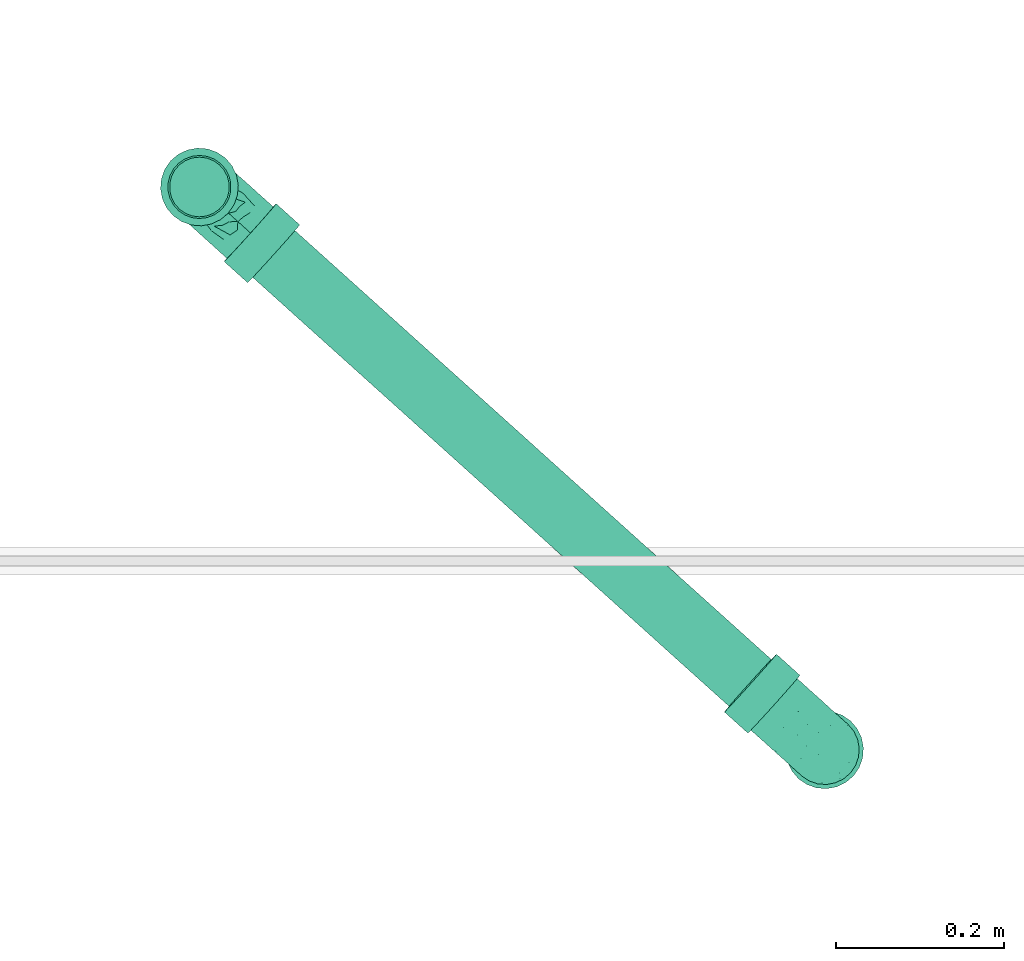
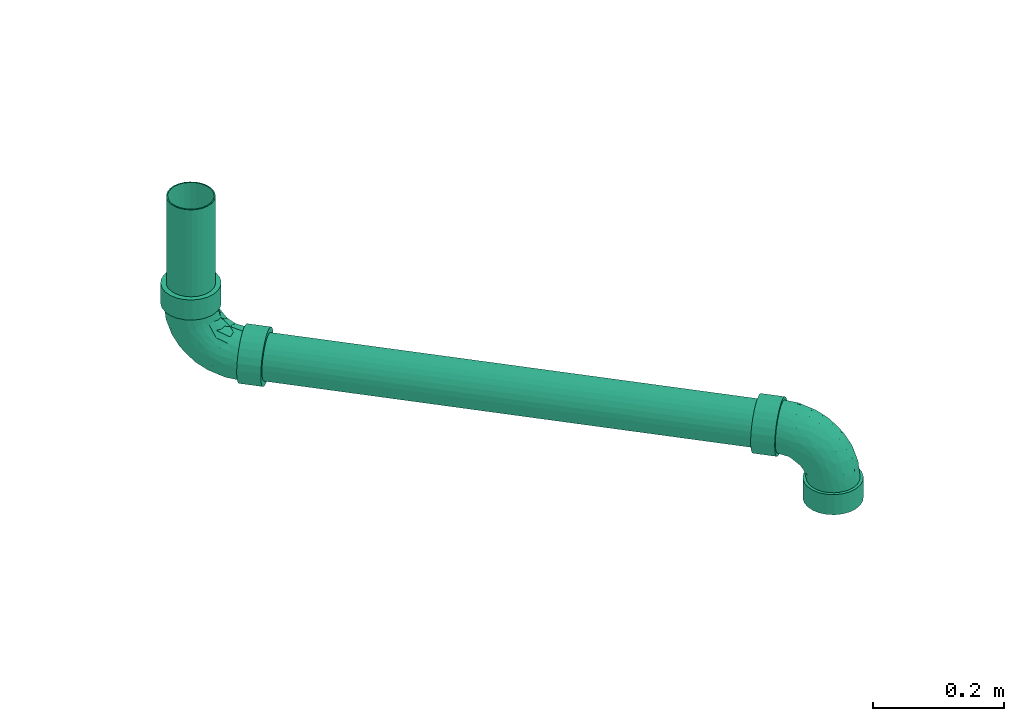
# One storey, part 51 of 108: 2 flow fittings, 2 flow segments.
"""IFC2X3 building model written with IfcOpenShell, lengths in millimetres."""

from ifc_helpers import new_model, entity, si_unit, converted_unit, derived_unit, direction, frame, origin_with_axes, origin_2d_with_axis, place, context, subcontext, project, spatial, hollow_circle, extrude, open_shell, surface_model, source, transform, mapped, type_object, element, save


model = new_model("IFC2X3")

# Units and contexts
model_context = context("Model", 3, precision=0.01, world=frame((0.0, 4.29681676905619e-09, 0.0)), true_north=direction((4.01073788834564e-13, 1.0)))
plan_context = context("Plan", 3, precision=0.01, world=frame((0.0, 4.29681676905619e-09, 0.0)), true_north=direction((4.01073788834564e-13, 1.0)))
body_context = subcontext(model_context, "Body", "Model", "MODEL_VIEW")
ifc_project = project(units=[converted_unit("PLANEANGLEUNIT", "DEGREE", entity("IfcPositiveLengthMeasure", 0.0174532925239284), si_unit("PLANEANGLEUNIT", "RADIAN"), dimensions=[0, 0, 0, 0, 0, 0, 0]), si_unit("AREAUNIT", "SQUARE_METRE"), si_unit("LENGTHUNIT", "METRE", prefix="MILLI"), si_unit("MASSUNIT", "GRAM", prefix="KILO"), si_unit("POWERUNIT", "WATT"), si_unit("PRESSUREUNIT", "PASCAL", prefix="KILO"), si_unit("FORCEUNIT", "NEWTON", prefix="KILO"), si_unit("ELECTRICVOLTAGEUNIT", "VOLT"), si_unit("ELECTRICCURRENTUNIT", "AMPERE"), si_unit("THERMODYNAMICTEMPERATUREUNIT", "DEGREE_CELSIUS"), si_unit("TIMEUNIT", "SECOND"), si_unit("VOLUMEUNIT", "CUBIC_METRE"), derived_unit("LINEARVELOCITYUNIT", [(si_unit("LENGTHUNIT", "METRE"), 1), (si_unit("TIMEUNIT", "SECOND"), -1)]), derived_unit("VOLUMETRICFLOWRATEUNIT", [(si_unit("VOLUMEUNIT", "CUBIC_METRE"), 1), (si_unit("TIMEUNIT", "SECOND"), -1)]), derived_unit("THERMALTRANSMITTANCEUNIT", [(si_unit("POWERUNIT", "WATT"), 1), (si_unit("THERMODYNAMICTEMPERATUREUNIT", "KELVIN"), -1), (si_unit("AREAUNIT", "SQUARE_METRE"), -1)]), derived_unit("SOUNDPRESSUREUNIT", [(si_unit("PRESSUREUNIT", "PASCAL"), 1)])], contexts=[model_context, plan_context])

# Site, building, storey
site_placement = place(None, frame((0.0, -4.29681676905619e-09, 0.0), z_axis=(0.0, 0.0, 1.0), x_axis=(1.0, 0.0, 0.0)))
site = spatial("IfcSite", under=ifc_project, at=site_placement, CompositionType="ELEMENT")
building_placement = place(site_placement, frame((0.0, 4.29681676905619e-09, 0.0), z_axis=(0.0, 0.0, 1.0), x_axis=(1.0, 0.0, 0.0)))
building = spatial("IfcBuilding", under=site, at=building_placement, Name="mc-building", CompositionType="ELEMENT")
storey_placement = place(building_placement, frame((0.0, 0.0, 210200.0), z_axis=(0.0, 0.0, 1.0), x_axis=(1.0, 0.0, 0.0)))
storey = spatial("IfcBuildingStorey", under=building, at=storey_placement, Name="Nivå F - 0,7 m", CompositionType="ELEMENT", Elevation=210200.0)

# Flow fittings
pipe_fitting_type = type_object("IfcPipeFittingType", Name="magi_sewer_bend_001", PredefinedType="BEND")
shared_shape_1 = source(origin_with_axes(), body_context, "Body", "SurfaceModel", [
    surface_model("IfcShellBasedSurfaceModel", [(-118.63645, -44.67407, -11.97038), (-118.63645, -11.97038, -44.67407), (-118.63645, -23.125, -40.05367), (-118.63645, -32.70369, -32.70369), (-118.63645, 0.0, -46.25), (-118.63645, -40.05367, -23.125), (-118.63645, -46.25, 0.0), (-118.63645, 11.97038, -44.67407), (-118.63645, 32.70369, -32.70369), (-118.63645, 23.125, -40.05367), (-118.63645, 44.67407, -11.97038), (-118.63645, 40.05367, -23.125), (-118.63645, -32.70369, 32.70369), (-118.63645, -44.67407, 11.97038), (-118.63645, -40.05367, 23.125), (-118.63645, 32.70369, 32.70369), (-118.63645, -23.125, 40.05367), (-118.63645, -11.97038, 44.67407), (-118.63645, 0.0, 46.25), (-118.63645, 44.67407, 11.97038), (-118.63645, 46.25, 0.0), (-118.63645, 40.05367, 23.125), (-118.63645, 11.97038, 44.67407), (-118.63645, 23.125, 40.05367), (-81.13645, 0.0, 46.25), (-81.13645, -11.97038, 44.67407), (-81.13645, -23.125, 40.05367), (-81.13645, -32.70369, 32.70369), (-81.13645, -40.05367, 23.125), (-81.13645, -44.67407, 11.97038), (-81.13645, 32.70369, 32.70369), (-81.13645, -44.67407, -11.97038), (-81.13645, 11.97038, 44.67407), (-81.13645, 23.125, 40.05367), (-81.13645, 44.67407, 11.97038), (-81.13645, 44.67407, -11.97038), (-81.13645, 46.25, 0.0), (-81.13645, 40.05367, 23.125), (-81.13645, -32.70369, -32.70369), (-81.13645, -40.05367, -23.125), (-81.13645, -23.125, -40.05367), (-81.13645, -11.97038, -44.67407), (-81.13645, 11.97038, -44.67407), (-81.13645, 32.70369, -32.70369), (-81.13645, 40.05367, -23.125), (-81.13645, 23.125, -40.05367), (-81.13645, 0.0, -46.25), (-81.13645, -46.25, 0.0), (-9.99172, 118.81946, 44.67407), (-42.69087, 119.36444, 11.97038), (-38.07111, 119.28745, 23.125), (-30.72215, 119.16497, 32.70369), (-30.72215, 119.16497, -32.70369), (-21.14479, 119.00535, 40.05367), (25.09879, 118.23462, -40.05367), (-9.99172, 118.81946, -44.67407), (-42.69087, 119.36444, -11.97038), (-38.07111, 119.28745, -23.125), (-44.26658, 119.39071, 0.0), (-21.14479, 119.00535, -40.05367), (1.977, 118.61999, 46.25), (34.67615, 118.075, 32.70369), (13.94572, 118.42051, 44.67407), (25.09879, 118.23462, 40.05367), (42.02511, 117.95251, 23.125), (46.64486, 117.87552, 11.97038), (48.22058, 117.84926, 0.0), (13.94572, 118.42051, -44.67407), (1.977, 118.61999, -46.25), (34.67615, 118.075, -32.70369), (46.64486, 117.87552, -11.97038), (42.02511, 117.95251, -23.125), (47.59566, 80.35446, 0.0), (46.01995, 80.38072, 11.97038), (41.4002, 80.45773, 23.125), (34.05123, 80.5802, 32.70369), (24.47388, 80.73983, 40.05367), (13.32081, 80.92571, 44.67407), (24.47388, 80.73983, -40.05367), (-10.61663, 81.32467, 44.67407), (46.01995, 80.38072, -11.97038), (34.05123, 80.5802, -32.70369), (41.4002, 80.45773, -23.125), (13.32081, 80.92571, -44.67407), (-10.61663, 81.32467, -44.67407), (1.35209, 81.12519, -46.25), (1.35209, 81.12519, 46.25), (-31.34706, 81.67018, 32.70369), (-21.7697, 81.51055, 40.05367), (-38.69603, 81.79266, 23.125), (-43.31578, 81.86966, -11.97038), (-43.31578, 81.86966, 11.97038), (-31.34706, 81.67018, -32.70369), (-21.7697, 81.51055, -40.05367), (-38.69603, 81.79266, -23.125), (-44.89149, 81.89592, 0.0), (-81.13645, 10.67629, -39.84444), (-81.13645, 0.0, -41.25), (-81.13645, 35.72355, -20.625), (-81.13645, 20.625, -35.72355), (-81.13645, -10.67629, -39.84444), (-81.13645, 29.16816, -29.16816), (-81.13645, 39.84444, -10.67629), (-81.13645, -29.16816, -29.16816), (-81.13645, -35.72355, -20.625), (-81.13645, -20.625, -35.72355), (-81.13645, -39.84444, -10.67629), (-81.13645, -41.25, 0.0), (-81.13645, -39.84444, 10.67629), (-81.13645, 41.25, 0.0), (-81.13645, 35.72355, 20.625), (-81.13645, 39.84444, 10.67629), (-81.13645, 10.67629, 39.84444), (-81.13645, 20.625, 35.72355), (-81.13645, 29.16816, 29.16816), (-81.13645, 0.0, 41.25), (-81.13645, -35.72355, 20.625), (-81.13645, -29.16816, 29.16816), (-81.13645, -10.67629, 39.84444), (-81.13645, -20.625, 35.72355), (-9.32272, 81.3031, -39.84444), (30.51619, 80.63912, 29.16816), (1.35209, 81.12519, -41.25), (-34.3665, 81.7205, -20.625), (-19.27005, 81.46889, -35.72355), (21.97422, 80.78149, -35.72355), (-27.81202, 81.61126, -29.16816), (-34.3665, 81.7205, 20.625), (30.51619, 80.63912, -29.16816), (12.02689, 80.94728, -39.84444), (41.191, 80.46121, -10.67629), (41.191, 80.46121, 10.67629), (42.59636, 80.43779, 0.0), (37.07067, 80.52988, -20.625), (-38.48682, 81.78918, -10.67629), (-39.89219, 81.81259, 0.0), (-38.48682, 81.78918, 10.67629), (-19.27005, 81.46889, 35.72355), (-27.81202, 81.61126, 29.16816), (-9.32272, 81.3031, 39.84444), (37.07067, 80.52988, 20.625), (12.02689, 80.94728, 39.84444), (21.97422, 80.78149, 35.72355), (1.35209, 81.12519, 41.25), (-54.39442, -36.17404, 12.99457), (-59.16193, -32.03479, 23.17612), (-43.28809, -35.32005, 0.0), (-60.84196, -38.07033, 0.0), (23.37041, 18.86095, 10.62349), (15.01238, 9.79779, 15.95055), (11.94444, 2.36888, 8.70418), (-61.88845, -5.46813, 40.5533), (-56.57345, 6.31813, 41.17681), (32.38619, 35.45125, 8.39828), (27.1418, 25.72883, 0.0), (-58.98118, -15.54274, 37.10832), (-30.85607, -9.76023, 34.5265), (-40.12451, -0.47476, 40.00525), (-68.72839, -25.45103, 31.89237), (-35.98602, -31.79092, 8.39828), (-26.17756, -26.70928, 0.0), (-6.74396, 6.85729, 33.83574), (-14.04648, -9.83948, 26.468), (-39.19131, 65.31528, 17.88497), (-14.23306, 70.22892, 38.62481), (-4.65309, 60.53836, 41.14609), (-62.27481, 16.19182, 38.95705), (-10.07336, 26.71188, 40.49708), (-19.56807, 7.50587, 38.60631), (-3.30313, 21.70945, 37.91013), (-70.23759, 24.97294, 33.58539), (-13.65396, 39.94702, 41.16014), (-29.72786, 30.22745, 40.21467), (-23.93531, 17.70774, 41.06244), (-62.06374, 44.71052, 9.37653), (-64.65311, 40.27431, 17.88497), (26.59281, 68.29472, 31.89237), (-63.23862, 34.37113, 27.04031), (-42.66984, 45.56196, 29.16641), (-51.8902, 44.18713, 22.91415), (-33.39862, 63.50778, 27.07262), (16.52346, 58.71398, 37.10832), (24.38357, 51.08549, 30.6589), (33.01624, 58.61988, 23.17612), (25.6206, 31.60074, 20.54424), (37.07546, 53.78405, 12.99457), (-9.06702, -18.0985, 0.0), (-19.24778, -23.05286, 10.62349), (6.4987, 61.78873, 40.5533), (-44.29082, 17.50905, 40.50755), (-39.59673, 10.04822, 41.2375), (18.24709, 8.76416, 0.0), (39.07893, 60.1991, 0.0), (-43.03932, 27.67385, 38.13016), (-32.0233, -25.09044, 20.54424), (-51.48473, -23.52888, 30.6589), (-29.00264, 52.56785, 34.64816), (-24.07159, 68.2883, 33.76756), (-50.57861, 53.84244, 7.25586), (-60.71022, 46.66243, 0.0), (19.67072, 31.77171, 27.9348), (10.27307, 30.68913, 34.5265), (10.07219, 13.88056, 26.468), (-45.64426, 61.47939, 0.0), (-41.82083, 67.74942, 7.78687), (-37.43075, 42.9787, 33.8492), (-55.83247, 27.89915, 34.6893), (-31.91377, -18.01784, 28.91129), (-22.76666, 42.19771, 39.59466), (-32.08476, 39.39323, 37.49357), (-16.86515, 55.15006, 39.26198), (-50.12448, 50.96685, 15.38789), (1.14334, 40.11103, 40.00525), (-2.41073, -11.82067, 8.53117), (-9.77489, -14.76888, 15.71619), (-2.34518, 2.38459, 28.45121), (3.16609, -3.21929, 16.67866), (36.03651, 42.69349, 0.0), (4.59003, -4.66717, 0.0), (-62.94239, 34.4523, -27.07262), (-32.0951, -19.13853, -27.9348), (-30.85607, -9.76023, -34.5265), (-14.04648, -9.83948, -26.46799), (-60.45241, 5.66128, -41.14609), (16.52346, 58.71398, -37.10832), (10.27307, 30.68913, -34.5265), (1.14334, 40.11103, -40.00525), (-69.98198, 15.4014, -38.62481), (-23.79901, 70.644, -33.58539), (-33.31253, 63.80261, -27.04031), (-67.04309, 42.94403, -7.78687), (10.07219, 13.88056, -26.468), (18.54716, 31.60909, -28.91129), (-64.65311, 40.27431, -17.88497), (11.94444, 2.36888, -8.70418), (15.01238, 9.79779, -15.95055), (23.37041, 18.86095, -10.62349), (-38.85309, 32.73676, -37.49358), (-41.81246, 23.4667, -39.59466), (-52.07724, 29.87463, -34.64816), (-6.74396, 6.85729, -33.83574), (-26.5403, 10.5171, -40.49708), (-7.17874, 19.69043, -38.60631), (-21.65139, 3.66445, -37.91013), (-67.87768, 25.20623, -33.76756), (-54.39442, -36.17404, -12.99457), (-44.84457, 43.42318, -29.16641), (-59.16193, -32.03479, -23.17612), (-32.0233, -25.09044, -20.54424), (-19.24778, -23.05286, -10.62349), (-35.98602, -31.79092, -8.39828), (-58.98118, -15.54274, -37.10832), (-61.88845, -5.46813, -40.5533), (-54.86135, 17.78185, -39.26198), (-39.71394, 14.31775, -41.16014), (-15.15181, 62.53599, -38.95705), (-5.37449, 56.67088, -41.17681), (-43.67006, 62.80019, -9.37653), (-52.99211, 51.46884, -7.25586), (-26.95278, 43.49451, -38.13017), (-16.76854, 44.57645, -40.50755), (-43.31628, 52.61934, -22.91415), (6.49871, 61.78872, -40.5533), (-2.41073, -11.82067, -8.53117), (37.07546, 53.78405, -12.99457), (33.01624, 58.61988, -23.17612), (-68.72839, -25.45103, -31.89237), (-29.72786, 30.22745, -40.21467), (-17.30642, 24.22707, -41.06244), (26.59281, 68.29472, -31.89237), (-51.48473, -23.52888, -30.6589), (-39.19132, 65.31528, -17.88497), (32.38619, 35.45125, -8.39828), (-42.34897, 38.14177, -33.8492), (-26.96486, 56.28963, -34.6893), (25.62061, 31.60074, -20.54424), (24.38358, 51.08549, -30.6589), (-9.38697, 39.75868, -41.2375), (-50.12448, 50.96685, -15.38789), (-40.12451, -0.47476, -40.00525), (0.23726, -0.24125, -23.998), (-9.77489, -14.76888, -15.71619), (3.16609, -3.2193, -16.67866)], [open_shell([[[0, 1, 2]], [[0, 2, 3]], [[1, 0, 4]], [[0, 3, 5]], [[4, 0, 6]], [[7, 8, 9]], [[8, 7, 4]], [[8, 10, 11]], [[10, 8, 4]], [[4, 6, 10]], [[6, 12, 10]], [[13, 14, 12]], [[10, 12, 15]], [[16, 17, 18]], [[16, 18, 12]], [[15, 12, 18]], [[10, 19, 20]], [[10, 21, 19]], [[15, 22, 23]], [[10, 15, 21]], [[18, 22, 15]], [[6, 13, 12]], [[24, 25, 26]], [[24, 26, 27]], [[27, 28, 29]], [[24, 27, 30]], [[27, 31, 30]], [[32, 30, 33]], [[32, 24, 30]], [[34, 35, 36]], [[37, 35, 34]], [[37, 30, 35]], [[27, 29, 31]], [[35, 30, 31]], [[38, 31, 39]], [[40, 41, 31]], [[40, 31, 38]], [[42, 31, 41]], [[35, 43, 44]], [[35, 31, 43]], [[43, 42, 45]], [[31, 42, 43]], [[41, 46, 42]], [[31, 29, 47]], [[35, 10, 36]], [[44, 11, 35]], [[9, 43, 45]], [[44, 43, 8]], [[7, 45, 42]], [[35, 11, 10]], [[10, 20, 36]], [[7, 9, 45]], [[8, 43, 9]], [[8, 11, 44]], [[4, 7, 42]], [[42, 46, 4]], [[46, 41, 1]], [[5, 39, 31]], [[39, 3, 38]], [[0, 31, 47]], [[1, 40, 2]], [[40, 1, 41]], [[40, 38, 2]], [[38, 3, 2]], [[39, 5, 3]], [[0, 5, 31]], [[47, 6, 0]], [[46, 1, 4]], [[29, 13, 47]], [[28, 14, 29]], [[16, 27, 26]], [[28, 27, 12]], [[17, 26, 25]], [[29, 14, 13]], [[13, 6, 47]], [[17, 16, 26]], [[12, 27, 16]], [[12, 14, 28]], [[18, 17, 25]], [[25, 24, 18]], [[30, 23, 33]], [[34, 21, 37]], [[30, 37, 15]], [[19, 34, 36]], [[33, 22, 32]], [[33, 23, 22]], [[22, 18, 32]], [[30, 15, 23]], [[37, 21, 15]], [[19, 21, 34]], [[36, 20, 19]], [[32, 18, 24]], [[48, 49, 50]], [[48, 50, 51]], [[49, 48, 52]], [[48, 51, 53]], [[54, 55, 48]], [[56, 52, 57]], [[56, 58, 49]], [[52, 55, 59]], [[56, 49, 52]], [[48, 55, 52]], [[48, 60, 61]], [[62, 63, 61]], [[48, 61, 54]], [[64, 65, 66]], [[64, 66, 61]], [[54, 61, 66]], [[55, 67, 68]], [[54, 67, 55]], [[69, 70, 71]], [[69, 54, 66]], [[70, 69, 66]], [[60, 62, 61]], [[72, 73, 74]], [[72, 74, 75]], [[75, 76, 77]], [[72, 75, 78]], [[75, 79, 78]], [[80, 81, 82]], [[80, 72, 81]], [[83, 84, 85]], [[81, 72, 78]], [[83, 78, 84]], [[75, 77, 86]], [[84, 78, 79]], [[87, 79, 88]], [[79, 89, 90]], [[89, 79, 87]], [[91, 90, 89]], [[84, 92, 93]], [[84, 79, 92]], [[92, 90, 94]], [[79, 90, 92]], [[91, 95, 90]], [[79, 75, 86]], [[84, 55, 85]], [[93, 59, 84]], [[57, 92, 94]], [[93, 92, 52]], [[56, 94, 90]], [[84, 59, 55]], [[55, 68, 85]], [[56, 57, 94]], [[52, 92, 57]], [[52, 59, 93]], [[58, 56, 90]], [[90, 95, 58]], [[95, 91, 49]], [[53, 88, 79]], [[88, 51, 87]], [[48, 79, 86]], [[49, 89, 50]], [[89, 49, 91]], [[89, 87, 50]], [[87, 51, 50]], [[88, 53, 51]], [[48, 53, 79]], [[86, 60, 48]], [[95, 49, 58]], [[77, 62, 86]], [[76, 63, 77]], [[64, 75, 74]], [[76, 75, 61]], [[65, 74, 73]], [[77, 63, 62]], [[62, 60, 86]], [[65, 64, 74]], [[61, 75, 64]], [[61, 63, 76]], [[66, 65, 73]], [[73, 72, 66]], [[81, 71, 82]], [[83, 54, 78]], [[81, 78, 69]], [[67, 83, 85]], [[82, 70, 80]], [[82, 71, 70]], [[70, 66, 80]], [[81, 69, 71]], [[78, 54, 69]], [[67, 54, 83]], [[85, 68, 67]], [[80, 66, 72]], [[96, 97, 98]], [[99, 96, 98]], [[100, 98, 97]], [[101, 99, 98]], [[102, 98, 100]], [[103, 104, 105]], [[100, 105, 104]], [[104, 106, 100]], [[106, 102, 100]], [[107, 108, 106]], [[109, 102, 106]], [[110, 111, 109]], [[108, 110, 106]], [[112, 113, 114]], [[108, 114, 110]], [[114, 115, 112]], [[116, 117, 108]], [[118, 108, 117]], [[119, 118, 117]], [[118, 114, 108]], [[118, 115, 114]], [[109, 106, 110]], [[120, 121, 122]], [[123, 120, 124]], [[121, 125, 122]], [[123, 124, 126]], [[127, 120, 123]], [[125, 121, 128]], [[125, 129, 122]], [[130, 131, 132]], [[133, 131, 130]], [[128, 131, 133]], [[123, 134, 135]], [[135, 136, 127]], [[127, 121, 120]], [[127, 137, 121]], [[137, 127, 138]], [[139, 121, 137]], [[131, 121, 140]], [[128, 121, 131]], [[121, 141, 142]], [[141, 121, 143]], [[139, 143, 121]], [[127, 123, 135]], [[144, 145, 116]], [[146, 144, 147]], [[148, 149, 150]], [[144, 116, 108]], [[108, 147, 144]], [[115, 151, 152]], [[117, 116, 145]], [[153, 148, 154]], [[155, 156, 157]], [[158, 119, 117]], [[155, 119, 158]], [[159, 146, 160]], [[161, 156, 162]], [[163, 127, 136]], [[139, 164, 165]], [[112, 166, 113]], [[167, 168, 169]], [[113, 170, 114]], [[118, 151, 115]], [[171, 172, 173]], [[174, 111, 175]], [[175, 111, 110]], [[176, 121, 142]], [[109, 111, 174]], [[177, 178, 179]], [[180, 163, 178]], [[177, 110, 114]], [[115, 152, 112]], [[181, 182, 176]], [[114, 170, 177]], [[183, 184, 185]], [[180, 127, 163]], [[160, 186, 187]], [[143, 188, 141]], [[160, 187, 159]], [[143, 139, 165]], [[189, 190, 173]], [[185, 131, 140]], [[140, 121, 183]], [[183, 185, 140]], [[148, 191, 154]], [[185, 192, 131]], [[193, 166, 189]], [[145, 194, 195]], [[180, 196, 197]], [[198, 199, 174]], [[200, 201, 202]], [[203, 204, 135]], [[193, 205, 206]], [[163, 136, 204]], [[181, 142, 141]], [[180, 138, 127]], [[162, 156, 207]], [[208, 196, 209]], [[119, 155, 118]], [[197, 137, 138]], [[164, 139, 137]], [[210, 171, 165]], [[182, 181, 201]], [[153, 184, 148]], [[196, 180, 178]], [[166, 112, 152]], [[206, 178, 177]], [[175, 179, 211]], [[210, 208, 171]], [[188, 165, 212]], [[156, 155, 195]], [[151, 155, 157]], [[207, 194, 162]], [[156, 161, 168]], [[188, 181, 141]], [[168, 161, 169]], [[212, 201, 181]], [[201, 161, 202]], [[184, 200, 202]], [[187, 213, 214]], [[194, 145, 144]], [[158, 145, 195]], [[176, 183, 121]], [[184, 183, 182]], [[189, 166, 152]], [[170, 166, 206]], [[193, 209, 205]], [[210, 164, 197]], [[177, 175, 110]], [[174, 175, 211]], [[198, 204, 203]], [[211, 179, 163]], [[214, 194, 187]], [[215, 216, 202]], [[162, 215, 161]], [[149, 216, 150]], [[189, 173, 172]], [[212, 165, 171]], [[168, 173, 157]], [[171, 173, 167]], [[165, 188, 143]], [[181, 188, 212]], [[155, 151, 118]], [[152, 151, 157]], [[108, 107, 147]], [[192, 185, 217]], [[192, 132, 131]], [[213, 187, 186]], [[159, 194, 144]], [[213, 150, 216]], [[185, 153, 217]], [[184, 202, 149]], [[189, 152, 190]], [[193, 189, 172]], [[209, 193, 172]], [[166, 193, 206]], [[208, 209, 172]], [[205, 209, 196]], [[198, 174, 211]], [[174, 199, 109]], [[204, 211, 163]], [[199, 198, 203]], [[204, 198, 211]], [[135, 204, 136]], [[152, 157, 190]], [[157, 173, 190]], [[171, 208, 172]], [[196, 208, 210]], [[177, 179, 175]], [[163, 179, 178]], [[218, 191, 150]], [[214, 213, 216]], [[150, 213, 218]], [[191, 148, 150]], [[213, 186, 218]], [[184, 149, 148]], [[202, 216, 149]], [[216, 162, 214]], [[194, 214, 162]], [[196, 178, 205]], [[206, 205, 178]], [[180, 197, 138]], [[210, 197, 196]], [[156, 168, 157]], [[161, 201, 169]], [[201, 212, 169]], [[167, 169, 212]], [[171, 167, 212]], [[168, 167, 173]], [[194, 159, 187]], [[146, 159, 144]], [[217, 153, 154]], [[184, 153, 185]], [[166, 170, 113]], [[177, 170, 206]], [[197, 164, 137]], [[165, 164, 210]], [[145, 158, 117]], [[155, 158, 195]], [[181, 176, 142]], [[183, 176, 182]], [[156, 195, 207]], [[194, 207, 195]], [[184, 182, 200]], [[201, 200, 182]], [[216, 215, 162]], [[202, 161, 215]], [[98, 219, 101]], [[220, 221, 222]], [[97, 96, 223]], [[224, 225, 226]], [[96, 99, 227]], [[126, 228, 229]], [[199, 230, 109]], [[231, 225, 232]], [[233, 102, 230]], [[234, 235, 236]], [[237, 238, 239]], [[225, 231, 240]], [[241, 242, 243]], [[244, 99, 101]], [[104, 245, 106]], [[125, 224, 129]], [[245, 147, 106]], [[239, 219, 246]], [[245, 104, 247]], [[219, 98, 233]], [[248, 249, 250]], [[219, 233, 246]], [[251, 105, 100]], [[130, 132, 192]], [[252, 100, 97]], [[248, 245, 247]], [[253, 254, 223]], [[255, 120, 256]], [[257, 258, 203]], [[259, 255, 260]], [[135, 134, 257]], [[219, 239, 244]], [[261, 229, 246]], [[122, 262, 256]], [[234, 218, 263]], [[126, 124, 228]], [[255, 124, 120]], [[264, 265, 133]], [[122, 129, 262]], [[98, 102, 233]], [[266, 103, 105]], [[126, 229, 123]], [[254, 267, 268]], [[269, 224, 125]], [[270, 266, 251]], [[257, 134, 271]], [[122, 256, 120]], [[217, 154, 272]], [[128, 133, 265]], [[269, 125, 128]], [[264, 130, 192]], [[270, 251, 221]], [[264, 192, 217]], [[249, 186, 160]], [[154, 191, 236]], [[130, 264, 133]], [[259, 273, 274]], [[96, 227, 223]], [[265, 275, 276]], [[134, 123, 271]], [[260, 277, 268]], [[104, 103, 247]], [[274, 246, 229]], [[271, 261, 278]], [[253, 238, 254]], [[252, 223, 279]], [[252, 251, 100]], [[242, 240, 243]], [[279, 221, 251]], [[221, 240, 222]], [[225, 224, 276]], [[262, 224, 226]], [[232, 275, 231]], [[225, 240, 242]], [[250, 249, 160]], [[248, 220, 222]], [[266, 247, 103]], [[248, 247, 270]], [[275, 265, 264]], [[269, 265, 276]], [[260, 255, 256]], [[228, 255, 274]], [[259, 237, 273]], [[253, 227, 244]], [[229, 271, 123]], [[257, 271, 278]], [[258, 230, 199]], [[278, 261, 233]], [[280, 240, 231]], [[281, 282, 263]], [[235, 275, 236]], [[280, 282, 281]], [[260, 268, 267]], [[279, 223, 254]], [[242, 268, 226]], [[254, 268, 241]], [[223, 252, 97]], [[251, 252, 279]], [[224, 262, 129]], [[256, 262, 226]], [[147, 245, 146]], [[147, 107, 106]], [[249, 263, 186]], [[245, 250, 146]], [[248, 222, 281]], [[154, 236, 272]], [[234, 263, 282]], [[272, 275, 264]], [[260, 256, 277]], [[259, 260, 267]], [[237, 259, 267]], [[255, 259, 274]], [[238, 237, 267]], [[273, 237, 239]], [[258, 257, 278]], [[257, 203, 135]], [[230, 278, 233]], [[203, 258, 199]], [[230, 258, 278]], [[109, 230, 102]], [[256, 226, 277]], [[226, 268, 277]], [[254, 238, 267]], [[239, 238, 253]], [[229, 261, 271]], [[233, 261, 246]], [[281, 263, 249]], [[235, 234, 282]], [[236, 191, 234]], [[280, 235, 282]], [[218, 234, 191]], [[218, 186, 263]], [[275, 235, 231]], [[248, 281, 249]], [[280, 281, 222]], [[239, 246, 273]], [[274, 273, 246]], [[219, 244, 101]], [[253, 244, 239]], [[225, 242, 226]], [[240, 221, 243]], [[221, 279, 243]], [[241, 243, 279]], [[254, 241, 279]], [[242, 241, 268]], [[146, 250, 160]], [[248, 250, 245]], [[275, 272, 236]], [[217, 272, 264]], [[255, 228, 124]], [[229, 228, 274]], [[244, 227, 99]], [[223, 227, 253]], [[251, 266, 105]], [[247, 266, 270]], [[265, 269, 128]], [[224, 269, 276]], [[248, 270, 220]], [[221, 220, 270]], [[225, 276, 232]], [[275, 232, 276]], [[240, 280, 222]], [[235, 280, 231]]])]),
])
for number, where, z_axis, x_axis, name in (
    (1, (334180.47035, 461747.94691, 270.0), (-0.669130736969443, -0.743144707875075, 0.0), (0.0, 0.0, -1.0), "magi_sewer_bend_001"),
    (2, (334923.59854, 461078.83129, 253.333710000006), (0.669130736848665, 0.743144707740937, 1.89999925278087e-05), (0.743041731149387, -0.669037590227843, -0.0166639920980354), "magi_sewer_bend_001"),
):
    element("IfcFlowFitting", number, at=place(storey_placement, frame(where, z_axis=z_axis, x_axis=x_axis)), inside=storey, type_object=pipe_fitting_type, Name=name, context=body_context, shape_type="MappedRepresentation", body=[
        mapped(shared_shape_1, transform((0.0, 0.0, 0.0), scale=1.0)),
    ])

# Flow segments
pipe_segment_type = type_object("IfcPipeSegmentType", Name="MA", PredefinedType="RIGIDSEGMENT")
shared_shape_2 = source(origin_with_axes(), body_context, "Body", "SweptSolid", [
    extrude(hollow_circle(Radius=37.5, WallThickness=2.0, at=origin_2d_with_axis()), frame((0.0, 0.0, 0.0), z_axis=(1.0, 0.0, 0.0), x_axis=(0.0, 1.0, 0.0)), (0.0, 0.0, 1.0), 198.9),
])
flow_segment_1_placement = place(storey_placement, frame((334180.47035, 461747.94691, 351.136460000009), z_axis=(1.0, 0.0, 0.0), x_axis=(0.0, 0.0, 1.0)))
element("IfcFlowSegment", 3, at=flow_segment_1_placement, inside=storey, type_object=pipe_segment_type, Name="MA", context=body_context, shape_type="MappedRepresentation", body=[
    mapped(shared_shape_2, transform((0.0, 0.0, 0.0), scale=1.0)),
])
shared_shape_3 = source(origin_with_axes(), body_context, "Body", "SweptSolid", [
    extrude(hollow_circle(Radius=37.5, WallThickness=2.0, at=origin_2d_with_axis()), frame((0.0, 0.0, 0.0), z_axis=(1.0, 0.0, 0.0), x_axis=(0.0, 1.0, 0.0)), (0.0, 0.0, 1.0), 837.8),
])
flow_segment_2_placement = place(storey_placement, frame((334240.75812, 461693.66357, 268.64791), z_axis=(0.0123840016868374, -0.0111510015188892, 0.999861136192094), x_axis=(0.743041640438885, -0.669037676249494, -0.0166645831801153)))
element("IfcFlowSegment", 4, at=flow_segment_2_placement, inside=storey, type_object=pipe_segment_type, Name="MA", context=body_context, shape_type="MappedRepresentation", body=[
    mapped(shared_shape_3, transform((0.0, 0.0, 0.0), scale=1.0)),
])

save(model, "model.ifc")
